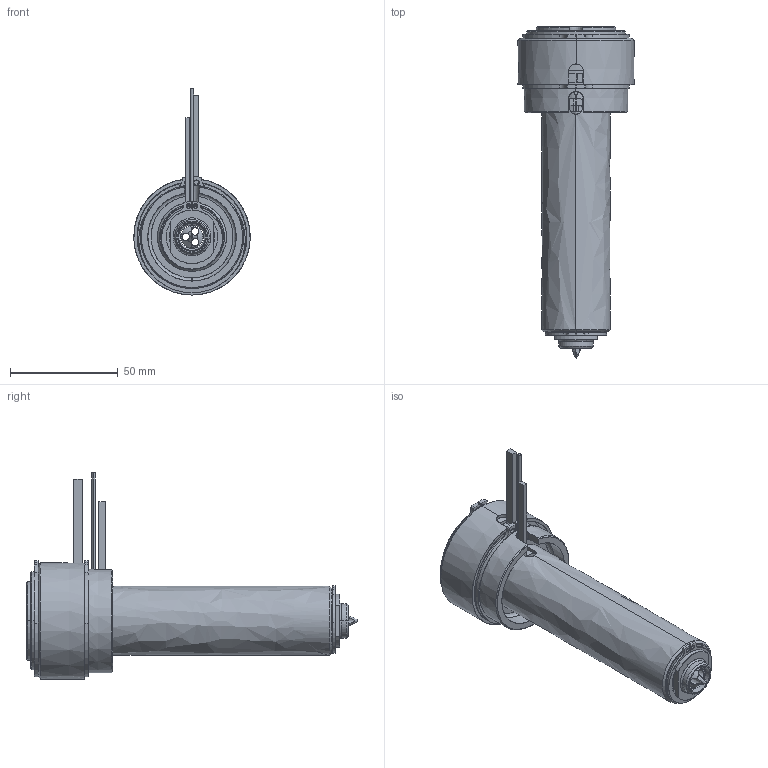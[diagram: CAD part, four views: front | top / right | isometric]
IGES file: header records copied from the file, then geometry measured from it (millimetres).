
Start section: SolidWorks IGES file using analytic representation for surfaces
Global section: file name: C:\Documents and Settings\ws-20\Desktop\TEM\UGEP5503-M-A-0 [Øf-0.80 ØC-12].IGS; native system: SolidWorks 2012; preprocessor: SolidWorks 2012; author: ws-20; date: 120427.080106; units: millimetre
Bounding box: 54 x 154.05 x 95.62 mm (x, y, z)
Surface area: 67169.4 mm2 (no closed solid volume)
Topology: 0 solids, 0 shells, 181 faces, 3606 edges, 3606 vertices
Faces by surface type: revolution 116, bspline 65
